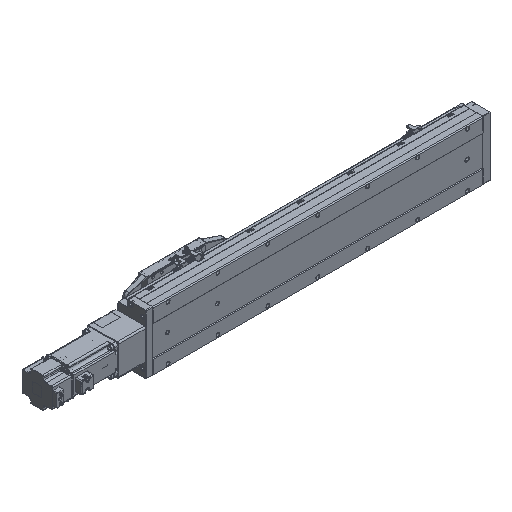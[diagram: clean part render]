
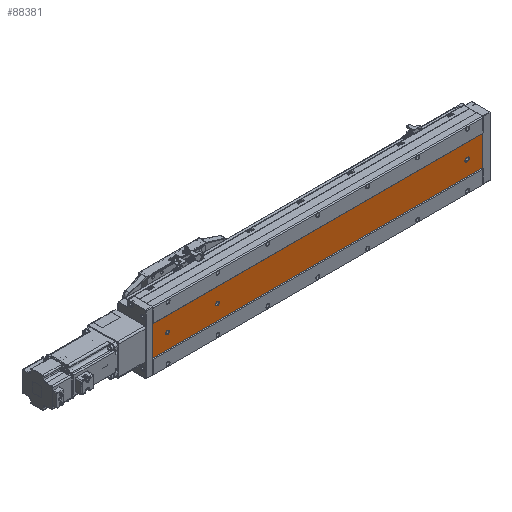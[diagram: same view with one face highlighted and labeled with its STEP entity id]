
A CAD part, isometric view. The second image highlights one B-rep face of the part: STEP entity #88381.
In plain terms, the highlighted planar face has unit normal (0, -1, 0).
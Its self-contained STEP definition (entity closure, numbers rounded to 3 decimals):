
#333 = DIRECTION ( 'NONE',  ( 0., 0., 1. ) ) ;
#1685 = DIRECTION ( 'NONE',  ( 0., 0., -1. ) ) ;
#2340 = CARTESIAN_POINT ( 'NONE',  ( -69.892, -52.848, 661. ) ) ;
#2721 = CIRCLE ( 'NONE', #10836, 3.5 ) ;
#2856 = CARTESIAN_POINT ( 'NONE',  ( -69.892, -52.848, 0. ) ) ;
#3235 = DIRECTION ( 'NONE',  ( 1., 0., 0. ) ) ;
#4469 = CIRCLE ( 'NONE', #38234, 3.5 ) ;
#4605 = ORIENTED_EDGE ( 'NONE', *, *, #66257, .T. ) ;
#5381 = ORIENTED_EDGE ( 'NONE', *, *, #69090, .F. ) ;
#5511 = DIRECTION ( 'NONE',  ( 0., 1., 0. ) ) ;
#6308 = EDGE_CURVE ( 'NONE', #28283, #12795, #20382, .T. ) ;
#6719 = CARTESIAN_POINT ( 'NONE',  ( -39.892, -52.848, 32. ) ) ;
#7087 = CARTESIAN_POINT ( 'NONE',  ( -39.892, -52.848, 531. ) ) ;
#7528 = DIRECTION ( 'NONE',  ( 0., 0., 1. ) ) ;
#10418 = FACE_BOUND ( 'NONE', #32238, .T. ) ;
#10679 = LINE ( 'NONE', #15187, #45146 ) ;
#10836 = AXIS2_PLACEMENT_3D ( 'NONE', #7087, #82948, #49212 ) ;
#11849 = CARTESIAN_POINT ( 'NONE',  ( -39.892, -52.848, 631. ) ) ;
#12639 = ORIENTED_EDGE ( 'NONE', *, *, #6308, .T. ) ;
#12795 = VERTEX_POINT ( 'NONE', #64595 ) ;
#12937 = CARTESIAN_POINT ( 'NONE',  ( -69.892, -52.848, 661. ) ) ;
#13954 = CARTESIAN_POINT ( 'NONE',  ( -69.892, -52.848, 661. ) ) ;
#14676 = DIRECTION ( 'NONE',  ( 0., 1., 0. ) ) ;
#15187 = CARTESIAN_POINT ( 'NONE',  ( -9.892, -52.848, 661. ) ) ;
#17035 = LINE ( 'NONE', #58027, #45029 ) ;
#17383 = CIRCLE ( 'NONE', #43278, 3.5 ) ;
#17458 = EDGE_LOOP ( 'NONE', ( #40134, #21392, #5381, #85329 ) ) ;
#18182 = EDGE_CURVE ( 'NONE', #71092, #30550, #4469, .T. ) ;
#19289 = ORIENTED_EDGE ( 'NONE', *, *, #64865, .T. ) ;
#20382 = LINE ( 'NONE', #23038, #66680 ) ;
#20852 = AXIS2_PLACEMENT_3D ( 'NONE', #6719, #27470, #61211 ) ;
#21148 = PLANE ( 'NONE',  #78946 ) ;
#21392 = ORIENTED_EDGE ( 'NONE', *, *, #77006, .F. ) ;
#22910 = CARTESIAN_POINT ( 'NONE',  ( -36.392, -52.848, 30. ) ) ;
#23003 = CARTESIAN_POINT ( 'NONE',  ( -39.892, -52.848, 26.5 ) ) ;
#23038 = CARTESIAN_POINT ( 'NONE',  ( -43.392, -52.848, 661. ) ) ;
#24235 = CARTESIAN_POINT ( 'NONE',  ( -69.892, -52.848, 0. ) ) ;
#26841 = DIRECTION ( 'NONE',  ( 0., 0., 1. ) ) ;
#27470 = DIRECTION ( 'NONE',  ( 0., 1., 0. ) ) ;
#28068 = DIRECTION ( 'NONE',  ( 0., 0., 1. ) ) ;
#28233 = AXIS2_PLACEMENT_3D ( 'NONE', #82765, #41513, #333 ) ;
#28283 = VERTEX_POINT ( 'NONE', #63934 ) ;
#28808 = ORIENTED_EDGE ( 'NONE', *, *, #41339, .T. ) ;
#29847 = VERTEX_POINT ( 'NONE', #24235 ) ;
#30114 = ORIENTED_EDGE ( 'NONE', *, *, #31872, .T. ) ;
#30203 = VECTOR ( 'NONE', #43169, 1000. ) ;
#30550 = VERTEX_POINT ( 'NONE', #69797 ) ;
#31872 = EDGE_CURVE ( 'NONE', #30550, #71092, #49283, .T. ) ;
#32238 = EDGE_LOOP ( 'NONE', ( #12639, #47712, #60185, #35361, #4605 ) ) ;
#34075 = CARTESIAN_POINT ( 'NONE',  ( -39.892, -52.848, 534.5 ) ) ;
#34484 = DIRECTION ( 'NONE',  ( 0., 0., 1. ) ) ;
#34671 = VERTEX_POINT ( 'NONE', #23003 ) ;
#35361 = ORIENTED_EDGE ( 'NONE', *, *, #75538, .T. ) ;
#38234 = AXIS2_PLACEMENT_3D ( 'NONE', #67928, #41445, #34484 ) ;
#38464 = CARTESIAN_POINT ( 'NONE',  ( -9.892, -52.848, 661. ) ) ;
#40134 = ORIENTED_EDGE ( 'NONE', *, *, #76316, .T. ) ;
#40894 = AXIS2_PLACEMENT_3D ( 'NONE', #11849, #5511, #26841 ) ;
#40921 = ORIENTED_EDGE ( 'NONE', *, *, #18182, .T. ) ;
#41339 = EDGE_CURVE ( 'NONE', #62752, #66966, #45503, .T. ) ;
#41445 = DIRECTION ( 'NONE',  ( 0., 1., 0. ) ) ;
#41513 = DIRECTION ( 'NONE',  ( 0., 1., 0. ) ) ;
#41669 = FACE_OUTER_BOUND ( 'NONE', #17458, .T. ) ;
#41776 = DIRECTION ( 'NONE',  ( 0., 0., 1. ) ) ;
#41839 = DIRECTION ( 'NONE',  ( 0., 1., 0. ) ) ;
#42481 = VERTEX_POINT ( 'NONE', #22910 ) ;
#42855 = VERTEX_POINT ( 'NONE', #83335 ) ;
#43169 = DIRECTION ( 'NONE',  ( 1., 0., 0. ) ) ;
#43278 = AXIS2_PLACEMENT_3D ( 'NONE', #83026, #14676, #41776 ) ;
#43841 = LINE ( 'NONE', #80711, #81487 ) ;
#43905 = EDGE_CURVE ( 'NONE', #71475, #29847, #80794, .T. ) ;
#44043 = CARTESIAN_POINT ( 'NONE',  ( -39.892, -52.848, 527.5 ) ) ;
#45029 = VECTOR ( 'NONE', #3235, 1000. ) ;
#45146 = VECTOR ( 'NONE', #1685, 1000. ) ;
#45503 = CIRCLE ( 'NONE', #28233, 3.5 ) ;
#46068 = DIRECTION ( 'NONE',  ( 0., 0., -1. ) ) ;
#46167 = VERTEX_POINT ( 'NONE', #38464 ) ;
#47712 = ORIENTED_EDGE ( 'NONE', *, *, #66985, .T. ) ;
#49013 = EDGE_LOOP ( 'NONE', ( #28808, #19289 ) ) ;
#49212 = DIRECTION ( 'NONE',  ( 0., 0., 1. ) ) ;
#49251 = DIRECTION ( 'NONE',  ( 0., 0., 1. ) ) ;
#49283 = CIRCLE ( 'NONE', #40894, 3.5 ) ;
#58027 = CARTESIAN_POINT ( 'NONE',  ( -69.892, -52.848, 661. ) ) ;
#58696 = CARTESIAN_POINT ( 'NONE',  ( -39.892, -52.848, 634.5 ) ) ;
#59779 = VERTEX_POINT ( 'NONE', #60726 ) ;
#60185 = ORIENTED_EDGE ( 'NONE', *, *, #72236, .T. ) ;
#60354 = LINE ( 'NONE', #2856, #30203 ) ;
#60726 = CARTESIAN_POINT ( 'NONE',  ( -9.892, -52.848, 0. ) ) ;
#61211 = DIRECTION ( 'NONE',  ( 0., 0., 1. ) ) ;
#62141 = FACE_BOUND ( 'NONE', #49013, .T. ) ;
#62752 = VERTEX_POINT ( 'NONE', #44043 ) ;
#63934 = CARTESIAN_POINT ( 'NONE',  ( -43.392, -52.848, 30. ) ) ;
#64595 = CARTESIAN_POINT ( 'NONE',  ( -43.392, -52.848, 32. ) ) ;
#64865 = EDGE_CURVE ( 'NONE', #66966, #62752, #2721, .T. ) ;
#66257 = EDGE_CURVE ( 'NONE', #34671, #28283, #69244, .T. ) ;
#66680 = VECTOR ( 'NONE', #49251, 1000. ) ;
#66966 = VERTEX_POINT ( 'NONE', #34075 ) ;
#66985 = EDGE_CURVE ( 'NONE', #12795, #42855, #80969, .T. ) ;
#67928 = CARTESIAN_POINT ( 'NONE',  ( -39.892, -52.848, 631. ) ) ;
#69090 = EDGE_CURVE ( 'NONE', #71475, #46167, #17035, .T. ) ;
#69244 = CIRCLE ( 'NONE', #84837, 3.5 ) ;
#69293 = DIRECTION ( 'NONE',  ( 0., 1., 0. ) ) ;
#69797 = CARTESIAN_POINT ( 'NONE',  ( -39.892, -52.848, 627.5 ) ) ;
#71092 = VERTEX_POINT ( 'NONE', #58696 ) ;
#71475 = VERTEX_POINT ( 'NONE', #2340 ) ;
#72236 = EDGE_CURVE ( 'NONE', #42855, #42481, #43841, .T. ) ;
#75538 = EDGE_CURVE ( 'NONE', #42481, #34671, #17383, .T. ) ;
#76316 = EDGE_CURVE ( 'NONE', #29847, #59779, #60354, .T. ) ;
#77006 = EDGE_CURVE ( 'NONE', #46167, #59779, #10679, .T. ) ;
#77189 = FACE_BOUND ( 'NONE', #88488, .T. ) ;
#78946 = AXIS2_PLACEMENT_3D ( 'NONE', #13954, #69293, #28068 ) ;
#80677 = DIRECTION ( 'NONE',  ( 0., 0., -1. ) ) ;
#80711 = CARTESIAN_POINT ( 'NONE',  ( -36.392, -52.848, 661. ) ) ;
#80794 = LINE ( 'NONE', #12937, #86117 ) ;
#80969 = CIRCLE ( 'NONE', #20852, 3.5 ) ;
#81487 = VECTOR ( 'NONE', #46068, 1000. ) ;
#82205 = CARTESIAN_POINT ( 'NONE',  ( -39.892, -52.848, 30. ) ) ;
#82765 = CARTESIAN_POINT ( 'NONE',  ( -39.892, -52.848, 531. ) ) ;
#82948 = DIRECTION ( 'NONE',  ( 0., 1., 0. ) ) ;
#83026 = CARTESIAN_POINT ( 'NONE',  ( -39.892, -52.848, 30. ) ) ;
#83335 = CARTESIAN_POINT ( 'NONE',  ( -36.392, -52.848, 32. ) ) ;
#84837 = AXIS2_PLACEMENT_3D ( 'NONE', #82205, #41839, #7528 ) ;
#85329 = ORIENTED_EDGE ( 'NONE', *, *, #43905, .T. ) ;
#86117 = VECTOR ( 'NONE', #80677, 1000. ) ;
#88381 = ADVANCED_FACE ( 'NONE', ( #10418, #62141, #77189, #41669 ), #21148, .F. ) ;
#88488 = EDGE_LOOP ( 'NONE', ( #30114, #40921 ) ) ;
